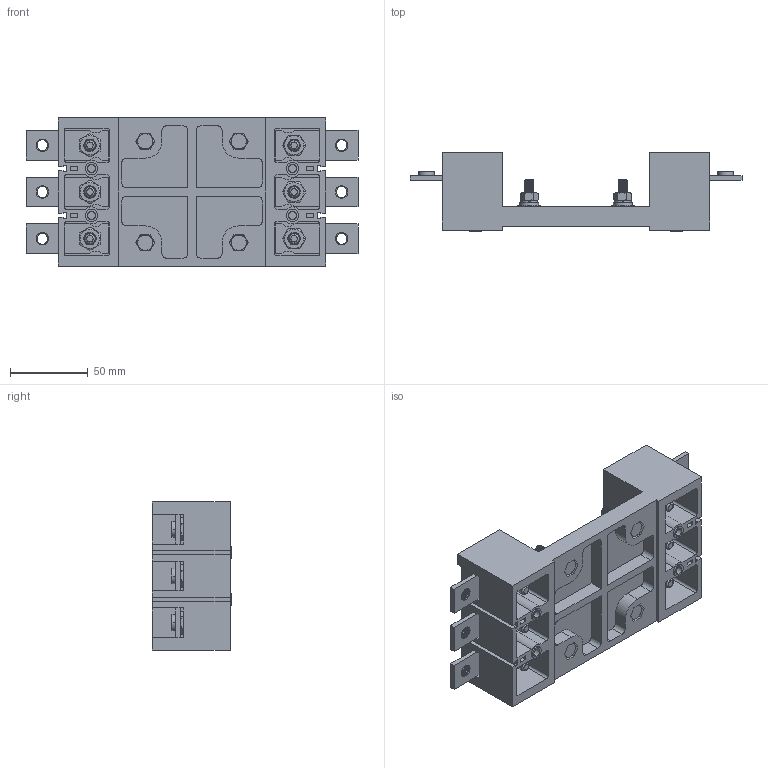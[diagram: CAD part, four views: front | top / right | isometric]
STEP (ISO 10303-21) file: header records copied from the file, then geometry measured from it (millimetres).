
FILE_DESCRIPTION (( 'STEP AP214' ), '1' );
FILE_NAME ('TGM1NE-125-3P Îñíîâàíèå âòû÷íîå.STEP', '2025-12-10T08:59:36', ( '' ), ( '' ), 'SwSTEP 2.0', 'SolidWorks 2024', '' );
FILE_SCHEMA (( 'AUTOMOTIVE_DESIGN' ));
Length unit declared in the file: millimetre
Products named in the file (3): TGM1NE-125-3P Основание втычное; TGM1NE-125-3P Основание втычное.stp; 底座_1.stp
Assembly tree (2 placements, depth 3):
  TGM1NE-125-3P Основание втычное
    TGM1NE-125-3P Основание втычное.stp
      底座_1.stp
Bounding box: 213 x 51 x 95 mm (x, y, z)
Volume: 315390.1 mm3; surface area: 124191.8 mm2
Topology: 1 solids, 93 shells, 2726 faces, 6304 edges, 3696 vertices
Faces by surface type: cone 1548, cylinder 636, plane 530, torus 12
Entity records: 80045 total; most frequent: CARTESIAN_POINT 16364, DIRECTION 14508, ORIENTED_EDGE 12608, EDGE_CURVE 6304, AXIS2_PLACEMENT_3D 5672, VERTEX_POINT 3696, VECTOR 3164, LINE 3164
